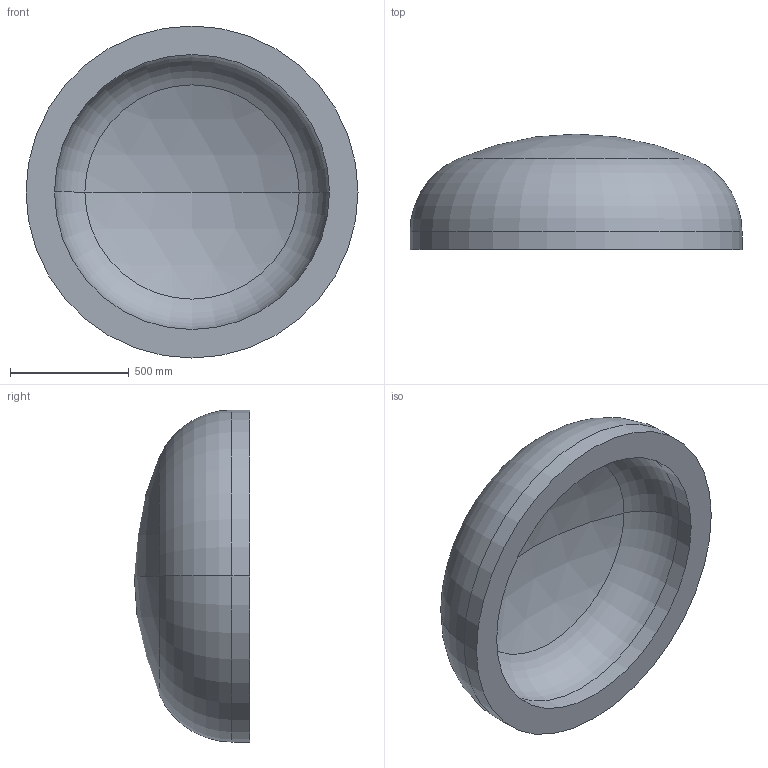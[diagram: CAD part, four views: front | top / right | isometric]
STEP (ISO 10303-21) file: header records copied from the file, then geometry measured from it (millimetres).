
FILE_DESCRIPTION (( 'STEP AP203' ), '1' );
FILE_NAME ('DIN 28013 Korbbogenform_-_Boden DIN 28013 - 1400 x 75 - I - s=120.step', '2016-07-01T10:32:29', ( '' ), ( '' ), 'SwSTEP 2.0', 'SolidWorks 2013', '' );
FILE_SCHEMA (( 'CONFIG_CONTROL_DESIGN' ));
Length unit declared in the file: millimetre
Products named in the file (1): DIN 28013 Korbbogenform_-_Boden DIN 28013 - 1400 x 75 - I - s=120
Bounding box: 1400 x 486.87 x 1400 mm (x, y, z)
Volume: 265906541.6 mm3; surface area: 4944482.7 mm2
Topology: 1 solids, 1 shells, 13 faces, 24 edges, 14 vertices
Faces by surface type: torus 4, cylinder 4, sphere 4, plane 1
Entity records: 407 total; most frequent: DIRECTION 72, CARTESIAN_POINT 52, ORIENTED_EDGE 48, AXIS2_PLACEMENT_3D 34, EDGE_CURVE 24, CIRCLE 20, VERTEX_POINT 14, EDGE_LOOP 14
